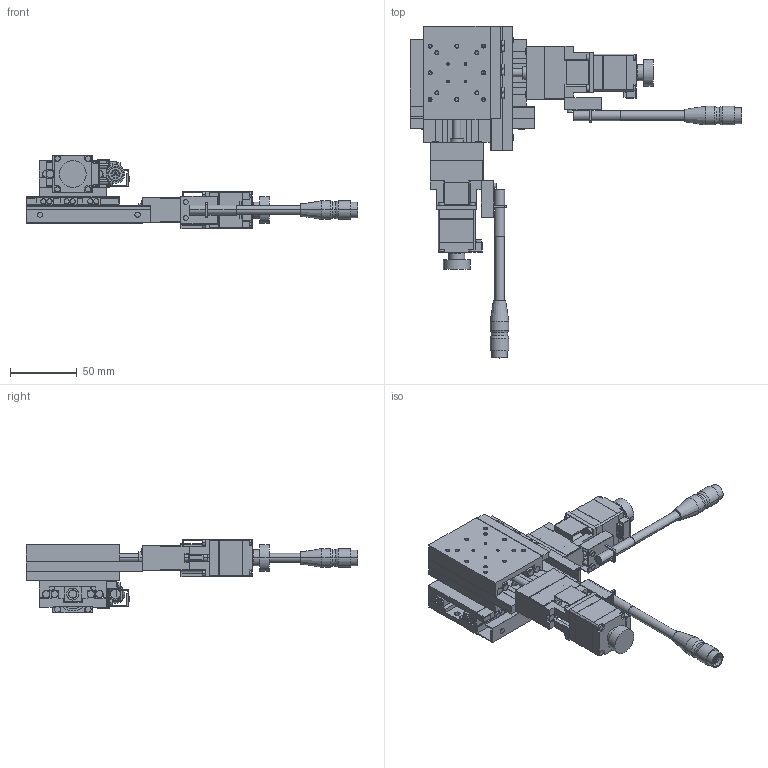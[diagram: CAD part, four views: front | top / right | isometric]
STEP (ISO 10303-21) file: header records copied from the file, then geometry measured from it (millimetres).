
FILE_DESCRIPTION(('STEP AP203'),'1');
FILE_NAME('C:/3D-Trans/3D_PMG530T-R□-E4+240122.step','2024-03-14T05:42:03',(' '),(' '),'Spatial InterOp 3D',' ',' ');
FILE_SCHEMA(('CONFIG_CONTROL_DESIGN'));
Length unit declared in the file: millimetre
Products named in the file (13): 1; 2; 3; 4; 5; 6; 7; 8; 9; 10; 11; 12; 13
Bounding box: 248.5 x 248.5 x 55 mm (x, y, z)
Volume: 273723.8 mm3; surface area: 134497.6 mm2
Topology: 13 solids, 13 shells, 1564 faces, 3932 edges, 2498 vertices
Faces by surface type: plane 864, cylinder 526, cone 172, extrusion 2
Entity records: 47802 total; most frequent: CARTESIAN_POINT 8675, DIRECTION 8306, ORIENTED_EDGE 7784, EDGE_CURVE 3892, AXIS2_PLACEMENT_3D 2881, VECTOR 2544, LINE 2542, VERTEX_POINT 2498
